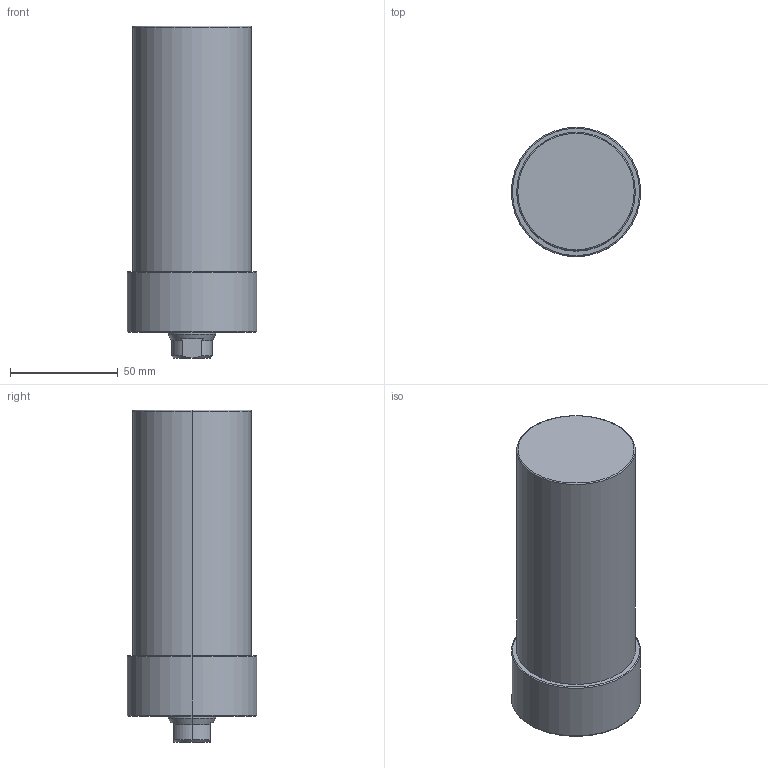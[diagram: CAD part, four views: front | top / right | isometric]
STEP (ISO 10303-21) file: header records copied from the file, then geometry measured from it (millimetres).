
FILE_DESCRIPTION (( 'STEP AP203' ), '1' );
FILE_NAME ('CLLU055-CA-085.STEP', '2017-05-15T08:07:36', ( '' ), ( '' ), 'SwSTEP 2.0', 'SolidWorks 2015', '' );
FILE_SCHEMA (( 'CONFIG_CONTROL_DESIGN' ));
Length unit declared in the file: millimetre
Products named in the file (1): CLLU055-CA-085
Bounding box: 60 x 60 x 154 mm (x, y, z)
Volume: 350345.6 mm3; surface area: 33020.4 mm2
Topology: 1 solids, 1 shells, 64 faces, 143 edges, 80 vertices
Faces by surface type: cone 25, cylinder 23, plane 10, torus 6
Entity records: 1805 total; most frequent: DIRECTION 330, CARTESIAN_POINT 318, ORIENTED_EDGE 266, AXIS2_PLACEMENT_3D 140, EDGE_CURVE 133, VERTEX_POINT 80, CIRCLE 75, EDGE_LOOP 73
